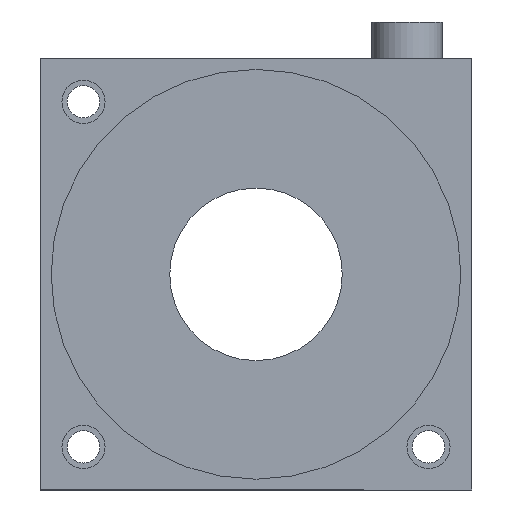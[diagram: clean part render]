
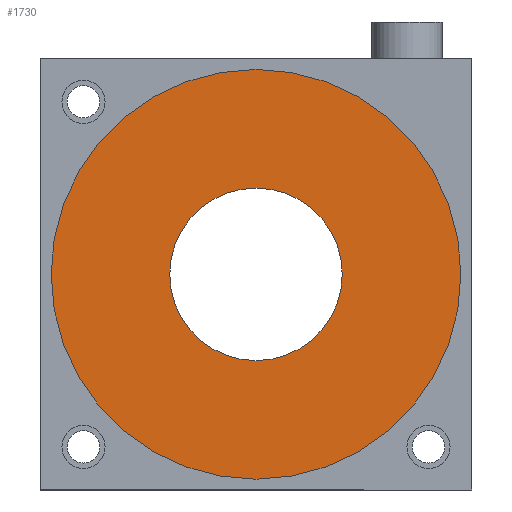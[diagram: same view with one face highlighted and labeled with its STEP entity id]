
A CAD part, front view. The second image highlights one B-rep face of the part: STEP entity #1730.
In plain terms, the highlighted planar face has unit normal (0, -1, 0).
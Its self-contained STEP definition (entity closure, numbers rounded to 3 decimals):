
#26 = CIRCLE ( 'NONE', #113, 19. ) ;
#30 = DIRECTION ( 'NONE',  ( 1., 0., 0. ) ) ;
#35 = ORIENTED_EDGE ( 'NONE', *, *, #797, .T. ) ;
#53 = AXIS2_PLACEMENT_3D ( 'NONE', #1412, #1647, #570 ) ;
#113 = AXIS2_PLACEMENT_3D ( 'NONE', #1645, #563, #1811 ) ;
#121 = EDGE_LOOP ( 'NONE', ( #1038, #576 ) ) ;
#159 = VERTEX_POINT ( 'NONE', #2125 ) ;
#211 = CIRCLE ( 'NONE', #374, 19. ) ;
#261 = VERTEX_POINT ( 'NONE', #536 ) ;
#284 = EDGE_LOOP ( 'NONE', ( #840, #35 ) ) ;
#308 = CARTESIAN_POINT ( 'NONE',  ( -19., 0.2, 0. ) ) ;
#374 = AXIS2_PLACEMENT_3D ( 'NONE', #2055, #978, #2238 ) ;
#478 = DIRECTION ( 'NONE',  ( 0., 1., 0. ) ) ;
#536 = CARTESIAN_POINT ( 'NONE',  ( 8., 0.2, 0. ) ) ;
#563 = DIRECTION ( 'NONE',  ( 0., -1., 0. ) ) ;
#570 = DIRECTION ( 'NONE',  ( 1., 0., 0. ) ) ;
#576 = ORIENTED_EDGE ( 'NONE', *, *, #1123, .T. ) ;
#708 = VERTEX_POINT ( 'NONE', #308 ) ;
#793 = CIRCLE ( 'NONE', #1892, 8. ) ;
#797 = EDGE_CURVE ( 'NONE', #159, #261, #793, .T. ) ;
#840 = ORIENTED_EDGE ( 'NONE', *, *, #2262, .T. ) ;
#932 = DIRECTION ( 'NONE',  ( 1., 0., 0. ) ) ;
#978 = DIRECTION ( 'NONE',  ( 0., -1., 0. ) ) ;
#1038 = ORIENTED_EDGE ( 'NONE', *, *, #1571, .T. ) ;
#1123 = EDGE_CURVE ( 'NONE', #708, #1411, #26, .T. ) ;
#1129 = DIRECTION ( 'NONE',  ( 0., 1., 0. ) ) ;
#1209 = CARTESIAN_POINT ( 'NONE',  ( 0., 0.2, 0. ) ) ;
#1395 = AXIS2_PLACEMENT_3D ( 'NONE', #1209, #478, #932 ) ;
#1401 = CIRCLE ( 'NONE', #53, 8. ) ;
#1411 = VERTEX_POINT ( 'NONE', #1446 ) ;
#1412 = CARTESIAN_POINT ( 'NONE',  ( 0., 0.2, 0. ) ) ;
#1446 = CARTESIAN_POINT ( 'NONE',  ( 19., 0.2, 0. ) ) ;
#1571 = EDGE_CURVE ( 'NONE', #1411, #708, #211, .T. ) ;
#1645 = CARTESIAN_POINT ( 'NONE',  ( 0., 0.2, 0. ) ) ;
#1647 = DIRECTION ( 'NONE',  ( 0., 1., 0. ) ) ;
#1730 = ADVANCED_FACE ( 'NONE', ( #2280, #1796 ), #1912, .F. ) ;
#1796 = FACE_OUTER_BOUND ( 'NONE', #121, .T. ) ;
#1811 = DIRECTION ( 'NONE',  ( 0., 0., 1. ) ) ;
#1892 = AXIS2_PLACEMENT_3D ( 'NONE', #2203, #1129, #30 ) ;
#1912 = PLANE ( 'NONE',  #1395 ) ;
#2055 = CARTESIAN_POINT ( 'NONE',  ( 0., 0.2, 0. ) ) ;
#2125 = CARTESIAN_POINT ( 'NONE',  ( -8., 0.2, 0. ) ) ;
#2203 = CARTESIAN_POINT ( 'NONE',  ( 0., 0.2, 0. ) ) ;
#2238 = DIRECTION ( 'NONE',  ( 0., 0., 1. ) ) ;
#2262 = EDGE_CURVE ( 'NONE', #261, #159, #1401, .T. ) ;
#2280 = FACE_BOUND ( 'NONE', #284, .T. ) ;
